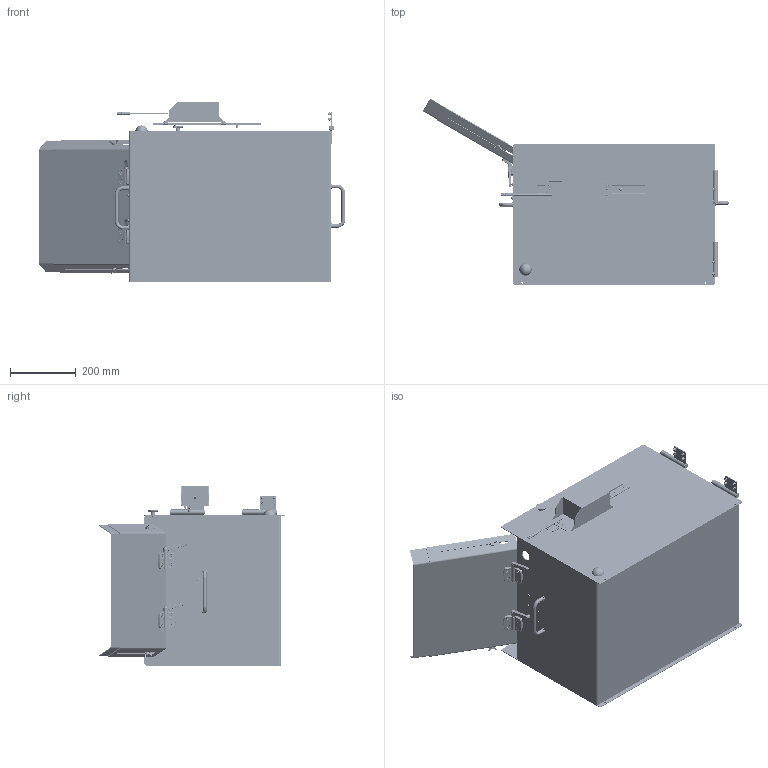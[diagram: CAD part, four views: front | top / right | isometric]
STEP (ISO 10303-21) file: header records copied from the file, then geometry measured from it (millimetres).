
FILE_DESCRIPTION (( 'STEP AP203' ), '1' );
FILE_NAME ('5010158 - VERSAWASH FOR VERSACART 1300.STEP', '2024-12-11T18:05:57', ( '' ), ( '' ), 'SwSTEP 2.0', 'SolidWorks 2019', '' );
FILE_SCHEMA (( 'CONFIG_CONTROL_DESIGN' ));
Length unit declared in the file: inch
Products named in the file (46): 5000519_13-INCH; 5010409_10095K34; 5010158 - VERSAWASH FOR VERSACART 1300; M5 CAPTIVE NUT_99437A155; M6 CAPTIVE NUT_99437A160; 5001378_48315K33; 5010347_STRAIGHT; 5010835_8215K236; M4x0.7 SHCS_SHCS M4-0.7 x 8; 5010160_As Machined; 5007462_As Machined; 5010169_Default Configuration; 5000753_7088A72; 5001047_As Machined; 5001218_As Machined; M6X1.0 WING-HEAD SCREW_M6 WING-HEAD x 10mm L; 5010411_10095K81; 5010410_10095K28; M5X0.8 SHCS_SHCS M5-0.8 x 12; M5x0.8 HEX NUT CLASS 8_M5 x 0.8 HEX NUT; 5010407_5" CUT LENGTH; 5010159; 5001379_60; M6x1.0 FHCS_FHCS M6x1.0x16-C; 5001216_5388K22; 5010407_4" CUT LENGTH; 5010182_Default Configuration; 5010390_94669A173; 5010249_4885K43; M4x0.7 FHCS_FHCS M4x0.7x25; 5010181_Default Configuration; 5010162_As Machined; M4 RUBBER WASHER_90133A612; 5001210_As Machined; 5010404_Default Configuration; M5x0.8 FHCS_M5x0.8 FHCS x 14mm; 5011513_Default Configuration; M5X0.80 BHCS_BHCS M5x0.8 x 10mm; 5010405_44605K235; 5001380_48315K43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
Assembly tree (117 placements, depth 4):
  5010158 - VERSAWASH FOR VERSACART 1300
    5010158_01 - BUCKET IN POSITION
      5010160_As Machined
      5001218_As Machined
      5010162_As Machined
      5001380_48315K43  x3
      5001379_60  x2
      5010249_4885K43
      5001378_48315K33  x2
      5010159
      5000753_7088A72  x2
      5010347_STRAIGHT  x2
      5008920_HANDLE FREE
      M4 RUBBER WASHER_90133A612
      5010390_94669A173
      5000519_13-INCH
      5010387_Default Configuration
      5007462_As Machined  x2
      5010405_44605K235
      5010407_4" CUT LENGTH  x2
      5010407_5" CUT LENGTH  x2
      5010407_3" CUT LENGTH
      5001216_5388K22  x10
      5010409_10095K34  x2
      5010411_10095K81  x4
      5010410_10095K28  x2
      5010835_8215K236
      5011513_Default Configuration
      M5x0.8 FHCS_M5x0.8 FHCS x 14mm  x16
      M5 CAPTIVE NUT_99437A155  x16
      M6 CAPTIVE NUT_99437A160  x6
      M6x1.0 FHCS_FHCS M6x1.0x16-C  x8
      M6x1.0 SHCS_SHCS M6-1.0 x 65  x2
      M4x0.7 SHCS_SHCS M4-0.7 x 8  x2
      M5X0.80 BHCS_BHCS M5x0.8 x 10mm  x2
      M5x0.8 HEX NUT CLASS 8_M5 x 0.8 HEX NUT  x2
      M4x0.7 FHCS_FHCS M4x0.7x25
      M4x0.7 HEX NUT_M4 x 0.7 HEX NUT
      M6X1.0 WING-HEAD SCREW_M6 WING-HEAD x 10mm L  x2
      5001047_As Machined
      M5X0.8 SHCS_SHCS M5-0.8 x 12  x4
      5010182_Default Configuration
        5010169_Default Configuration
        5010404_Default Configuration
        5010181_Default Configuration
  5001210_As Machined
Bounding box: 933.05 x 566.72 x 551.32 mm (x, y, z)
Volume: 8239381.6 mm3; surface area: 3882898.3 mm2
Topology: 149 solids, 149 shells, 10337 faces, 28137 edges, 18174 vertices
Faces by surface type: plane 4673, cylinder 2987, bspline 1337, cone 1126, torus 186, sphere 28
Entity records: 183190 total; most frequent: CARTESIAN_POINT 114071, ORIENTED_EDGE 13786, DIRECTION 12009, EDGE_CURVE 6893, AXIS2_PLACEMENT_3D 4507, VERTEX_POINT 4405, EDGE_LOOP 3030, VECTOR 2995
